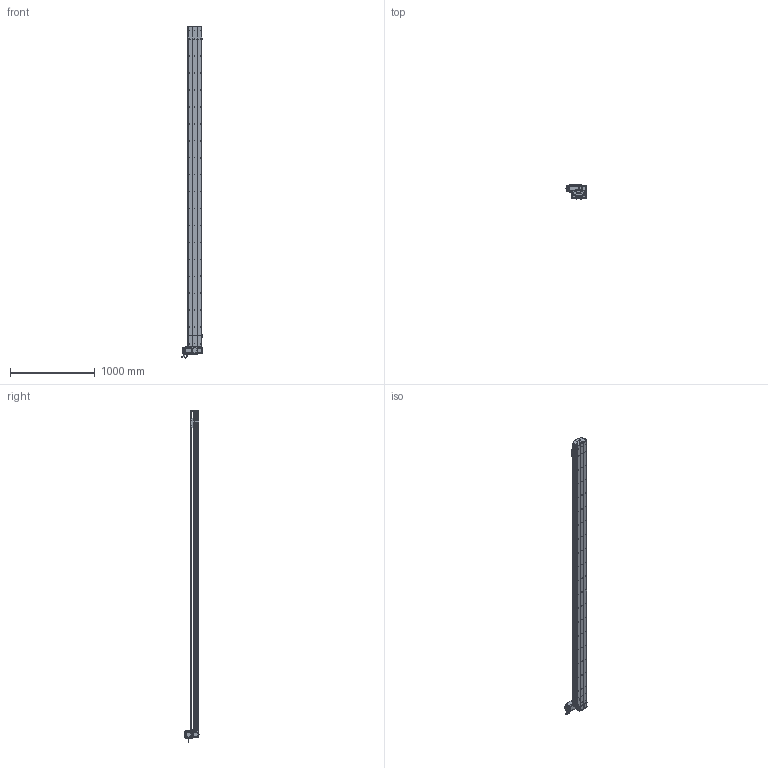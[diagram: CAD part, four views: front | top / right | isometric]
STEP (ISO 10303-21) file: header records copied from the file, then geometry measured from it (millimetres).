
FILE_DESCRIPTION (( 'STEP AP214' ), '1' );
FILE_NAME ('D17 TBN LT S3500.STEP', '2010-06-30T13:57:48', ( 'Conseil Régional Haute-Normandie' ), ( 'Conseil Régional Haute-Normandie' ), 'SwSTEP 2.0', 'SolidWorks 2010', '' );
FILE_SCHEMA (( 'AUTOMOTIVE_DESIGN' ));
Length unit declared in the file: millimetre
Products named in the file (40): Couroie tail D17B_Default; Vis M5 L16-2_Default; tete d''axe poulie D17B; course 3500 D17B_Default; Couroie+ rail D17 Course 3500 ; Arbre+rail head D17B; Chariot D17 TBN; guide D17; couvercle D17B course L3500_Default; corp D17B 3500_Default; Head LT D17B_Default; corpl head D17 _Default; Moteur motionking 90BLDC125A-640; avant 90BLDC125A-640; cache D17_Default; Plaque racord D17_Default; vis M5 L70_Default; couvercle D17B head_Default; plaque de  bout head D17B LT_Default; chariot D17 TBN; plaque de  bout tail D17B_Default; poulie tail_Default; Renvoi LT_Default; Rail D17B; poulie head_Default; corps 90BLDC125A-640; cache arbre D17_Default; couroie head D17_Default; couvercle D17B_Default; vis M5 L5_Default; codeur 90BLDC125-640; Tail D17B+100_Default; corp tail D17B+100_Default; Conecteur2_Default; vis M5 L12_Default; vis M5 L8 90°_Default; vis M5 L25_Default; Conecteur_Default; vis M5 L16_Default; D17 TBN LT S3500
Assembly tree (66 placements, depth 4):
  D17 TBN LT S3500
    Tail D17B+100_Default
      poulie tail_Default
      vis M5 L12_Default  x4
      plaque de  bout tail D17B_Default
      tete d''axe poulie D17B
      vis M5 L25_Default  x2
      Rail D17B
      vis M5 L8 90°_Default  x2
      couvercle D17B_Default
      corp tail D17B+100_Default
      Couroie tail D17B_Default
    course 3500 D17B_Default
      corp D17B 3500_Default
      Couroie+ rail D17 Course 3500 
      couvercle D17B course L3500_Default
    Head LT D17B_Default
      vis M5 L16_Default  x2
      vis M5 L5_Default  x4
      vis M5 L25_Default  x2
      vis M5 L12_Default  x8
      vis M5 L70_Default  x4
      Arbre+rail head D17B
      plaque de  bout head D17B LT_Default
      Vis M5 L16-2_Default  x4
      cache D17_Default  x2
      couroie head D17_Default
      corpl head D17 _Default
      Renvoi LT_Default
      poulie head_Default
      Plaque racord D17_Default
      cache arbre D17_Default
      couvercle D17B head_Default
      Moteur motionking 90BLDC125A-640
        avant 90BLDC125A-640
        Conecteur2_Default
        Conecteur_Default
        codeur 90BLDC125-640
        corps 90BLDC125A-640
    chariot D17 TBN
      guide D17  x2
      Chariot D17 TBN
Bounding box: 245.2 x 166.15 x 3917.95 mm (x, y, z)
Volume: 21904146.7 mm3; surface area: 6430510.3 mm2
Topology: 89 solids, 89 shells, 2691 faces, 6975 edges, 4494 vertices
Faces by surface type: plane 1537, cylinder 857, bspline 136, cone 80, torus 77, sphere 4
Entity records: 88125 total; most frequent: CARTESIAN_POINT 25981, ORIENTED_EDGE 11122, DIRECTION 10478, EDGE_CURVE 5561, VERTEX_POINT 3638, LINE 3588, VECTOR 3588, AXIS2_PLACEMENT_3D 3445
